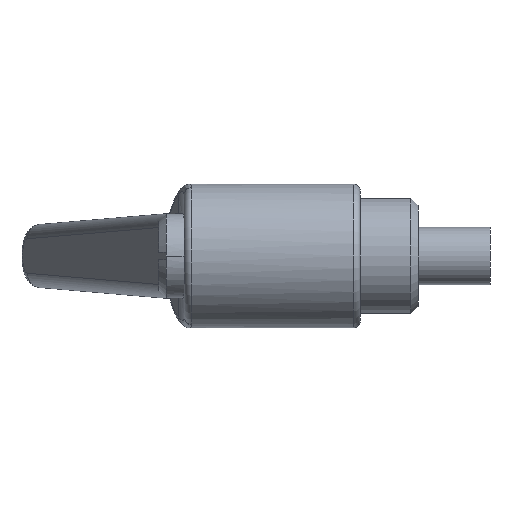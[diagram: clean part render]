
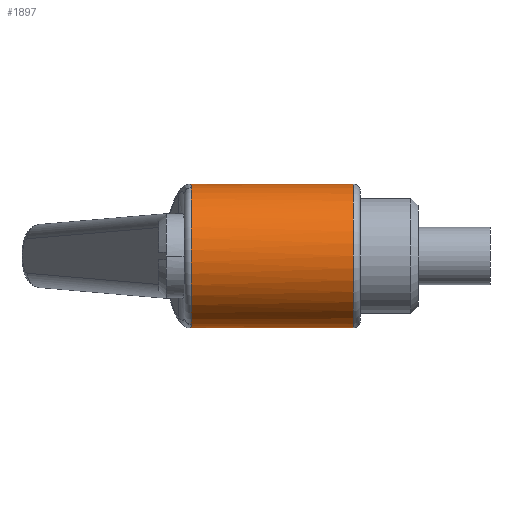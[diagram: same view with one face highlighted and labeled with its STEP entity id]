
A CAD part, left-side view. The second image highlights one B-rep face of the part: STEP entity #1897.
In plain terms, the highlighted cylindrical face has radius 10 mm (diameter 20 mm), a partial arc.
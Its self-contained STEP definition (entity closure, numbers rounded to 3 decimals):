
#8 = EDGE_CURVE ( 'NONE', #464, #491, #1521, .T. ) ;
#12 = CARTESIAN_POINT ( 'NONE',  ( 0., -0.803, -10. ) ) ;
#14 = CARTESIAN_POINT ( 'NONE',  ( 0., -23.5, -10. ) ) ;
#28 = ORIENTED_EDGE ( 'NONE', *, *, #1047, .F. ) ;
#35 = ORIENTED_EDGE ( 'NONE', *, *, #373, .T. ) ;
#168 = DIRECTION ( 'NONE',  ( 0., -1., 0. ) ) ;
#177 = CARTESIAN_POINT ( 'NONE',  ( 0., -1., 0. ) ) ;
#186 = ORIENTED_EDGE ( 'NONE', *, *, #8, .T. ) ;
#314 = DIRECTION ( 'NONE',  ( 0., 0., -1. ) ) ;
#320 = ORIENTED_EDGE ( 'NONE', *, *, #412, .T. ) ;
#337 = EDGE_CURVE ( 'NONE', #899, #890, #807, .T. ) ;
#360 = EDGE_CURVE ( 'NONE', #890, #534, #1550, .T. ) ;
#373 = EDGE_CURVE ( 'NONE', #534, #464, #467, .T. ) ;
#412 = EDGE_CURVE ( 'NONE', #491, #2110, #1718, .T. ) ;
#464 = VERTEX_POINT ( 'NONE', #12 ) ;
#467 = B_SPLINE_CURVE_WITH_KNOTS ( 'NONE', 3,
 ( #745, #2133, #2117, #2126, #2121, #2111 ),
 .UNSPECIFIED., .F., .F.,
 ( 4, 2, 4 ),
 ( 0., 0.002, 0.003 ),
 .UNSPECIFIED. ) ;
#491 = VERTEX_POINT ( 'NONE', #14 ) ;
#525 = ORIENTED_EDGE ( 'NONE', *, *, #360, .T. ) ;
#534 = VERTEX_POINT ( 'NONE', #1647 ) ;
#713 = CARTESIAN_POINT ( 'NONE',  ( -3.188, -1., 9.478 ) ) ;
#745 = CARTESIAN_POINT ( 'NONE',  ( -3.188, -1., -9.478 ) ) ;
#786 = LINE ( 'NONE', #1023, #1568 ) ;
#802 = AXIS2_PLACEMENT_3D ( 'NONE', #1783, #2100, #990 ) ;
#807 = B_SPLINE_CURVE_WITH_KNOTS ( 'NONE', 3,
 ( #1341, #1178, #1661, #713 ),
 .UNSPECIFIED., .F., .F.,
 ( 4, 4 ),
 ( 0.003, 0.007 ),
 .UNSPECIFIED. ) ;
#864 = CARTESIAN_POINT ( 'NONE',  ( 0., -23.5, 10. ) ) ;
#890 = VERTEX_POINT ( 'NONE', #1262 ) ;
#899 = VERTEX_POINT ( 'NONE', #1589 ) ;
#927 = EDGE_LOOP ( 'NONE', ( #28, #1802, #525, #35, #186, #320 ) ) ;
#990 = DIRECTION ( 'NONE',  ( 0., 0., -1. ) ) ;
#1023 = CARTESIAN_POINT ( 'NONE',  ( 0., 24.5, 10. ) ) ;
#1035 = DIRECTION ( 'NONE',  ( 0., 0., 1. ) ) ;
#1042 = DIRECTION ( 'NONE',  ( 0., 1., 0. ) ) ;
#1047 = EDGE_CURVE ( 'NONE', #899, #2110, #786, .T. ) ;
#1151 = CARTESIAN_POINT ( 'NONE',  ( 0., -23.5, 0. ) ) ;
#1162 = DIRECTION ( 'NONE',  ( 0., -1., 0. ) ) ;
#1178 = CARTESIAN_POINT ( 'NONE',  ( -1.084, -0.938, 10. ) ) ;
#1188 = CYLINDRICAL_SURFACE ( 'NONE', #802, 10. ) ;
#1240 = FACE_OUTER_BOUND ( 'NONE', #927, .T. ) ;
#1262 = CARTESIAN_POINT ( 'NONE',  ( -3.188, -1., 9.478 ) ) ;
#1341 = CARTESIAN_POINT ( 'NONE',  ( 0., -0.803, 10. ) ) ;
#1399 = VECTOR ( 'NONE', #1654, 1000. ) ;
#1484 = AXIS2_PLACEMENT_3D ( 'NONE', #177, #168, #314 ) ;
#1521 = LINE ( 'NONE', #1555, #1399 ) ;
#1550 = CIRCLE ( 'NONE', #1484, 10. ) ;
#1555 = CARTESIAN_POINT ( 'NONE',  ( 0., 24.5, -10. ) ) ;
#1568 = VECTOR ( 'NONE', #1162, 1000. ) ;
#1589 = CARTESIAN_POINT ( 'NONE',  ( 0., -0.803, 10. ) ) ;
#1647 = CARTESIAN_POINT ( 'NONE',  ( -3.188, -1., -9.478 ) ) ;
#1654 = DIRECTION ( 'NONE',  ( 0., -1., 0. ) ) ;
#1661 = CARTESIAN_POINT ( 'NONE',  ( -2.147, -1., 9.828 ) ) ;
#1718 = CIRCLE ( 'NONE', #1827, 10. ) ;
#1783 = CARTESIAN_POINT ( 'NONE',  ( 0., 24.5, 0. ) ) ;
#1802 = ORIENTED_EDGE ( 'NONE', *, *, #337, .T. ) ;
#1827 = AXIS2_PLACEMENT_3D ( 'NONE', #1151, #1042, #1035 ) ;
#1897 = ADVANCED_FACE ( 'NONE', ( #1240 ), #1188, .T. ) ;
#2100 = DIRECTION ( 'NONE',  ( 0., -1., 0. ) ) ;
#2110 = VERTEX_POINT ( 'NONE', #864 ) ;
#2111 = CARTESIAN_POINT ( 'NONE',  ( 0., -0.803, -10. ) ) ;
#2117 = CARTESIAN_POINT ( 'NONE',  ( -2.145, -0.984, -9.782 ) ) ;
#2121 = CARTESIAN_POINT ( 'NONE',  ( -0.542, -0.87, -10. ) ) ;
#2126 = CARTESIAN_POINT ( 'NONE',  ( -1.082, -0.92, -9.956 ) ) ;
#2133 = CARTESIAN_POINT ( 'NONE',  ( -2.67, -1., -9.653 ) ) ;
